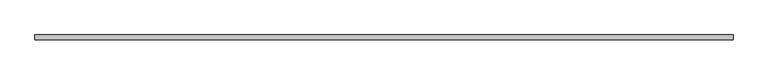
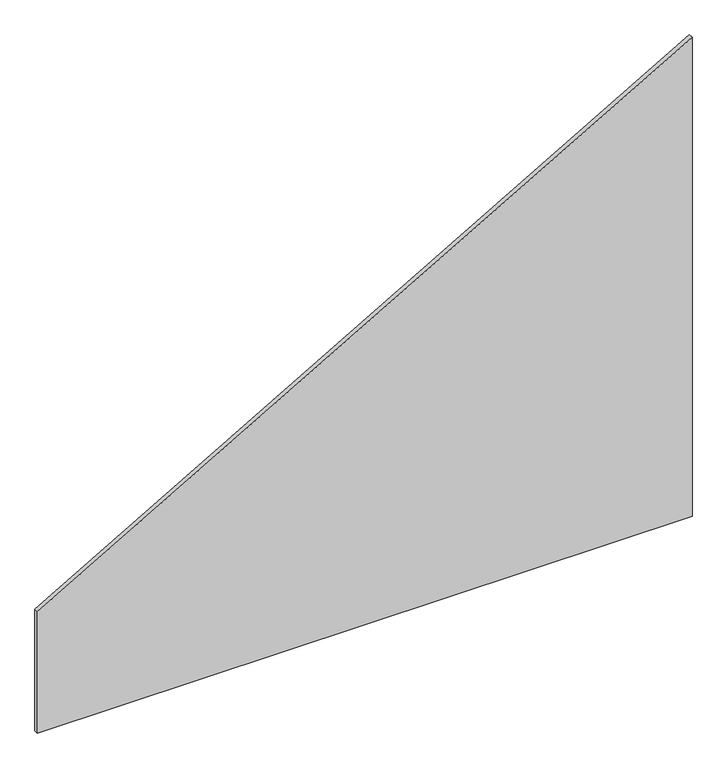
"""IFC4 building model written with IfcOpenShell, lengths in millimetres: plate geometry, 系統嵌板 : 玻璃 1.0cm."""

import ifcopenshell
import ifcopenshell.guid

model = None  # the IFC model being written
_history = None  # IfcOwnerHistory: only IFC2X3 demands one
_inside = {}  # id of a spatial element -> (the spatial element, [elements in it])
_under = {}  # id of a project, library or spatial element -> (it, [spatial elements below it])
_declared = {}  # id of a project -> (the project, [libraries it declares])
_typed = {}  # id of a type object -> (the type object, [elements of that type])
_made_of = {}  # id of a material, layer set ... -> (it, [elements and type objects made of it])


def new_model(schema):
    """Start an empty IFC model of exactly this schema.

    Asked for "IFC4X3", IfcOpenShell would pick the latest addendum, in which some entities
    have other attributes; the version numbers below select the first issue.
    IFC2X3 requires an IfcOwnerHistory on every rooted entity: one is made here for all.
    """
    global model, _history
    if schema == "IFC4X3":
        model = ifcopenshell.file(schema_version=(4, 3, 0, 0))
    else:
        model = ifcopenshell.file(schema=schema)
    _inside.clear()
    _under.clear()
    _declared.clear()
    _typed.clear()
    _made_of.clear()
    _history = None
    if model.schema == "IFC2X3":
        org = make("IfcOrganization", Name="unknown")
        user = make(
            "IfcPersonAndOrganization",
            ThePerson=make("IfcPerson", FamilyName="unknown"),
            TheOrganization=org,
        )
        app = make(
            "IfcApplication",
            ApplicationDeveloper=org,
            Version="unknown",
            ApplicationFullName="unknown",
            ApplicationIdentifier="unknown",
        )
        _history = make(
            "IfcOwnerHistory",
            OwningUser=user,
            OwningApplication=app,
            ChangeAction="ADDED",
            CreationDate=0,
        )
    return model


def make(cls, **values):
    """One entity of the class cls with the attributes given. An attribute that is None is left unset."""
    return model.create_entity(
        cls, **{name: value for name, value in values.items() if value is not None}
    )


def rooted(cls, **values):
    """An entity with a GlobalId (a new one), such as an element, a storey or a relation."""
    return make(cls, GlobalId=ifcopenshell.guid.new(), OwnerHistory=_history, **values)


def si_unit(unit_type, name, prefix=None):
    """IfcSIUnit, for example si_unit("LENGTHUNIT", "METRE", prefix="MILLI")."""
    return make("IfcSIUnit", UnitType=unit_type, Prefix=prefix, Name=name)


def assignment(units):
    """IfcUnitAssignment: the units of a project."""
    return None if units is None else make("IfcUnitAssignment", Units=units)


def point(xyz):
    """IfcCartesianPoint."""
    return None if xyz is None else make("IfcCartesianPoint", Coordinates=xyz)


def direction(xyz):
    """IfcDirection."""
    return None if xyz is None else make("IfcDirection", DirectionRatios=xyz)


def frame(location, z_axis=None, x_axis=None):
    """IfcAxis2Placement3D, a coordinate frame: its origin and axes. An axis left out is left unset."""
    return make(
        "IfcAxis2Placement3D",
        Location=point(location),
        Axis=direction(z_axis),
        RefDirection=direction(x_axis),
    )


def origin():
    """The frame at (0, 0, 0) with its axes left unset."""
    return frame((0.0, 0.0, 0.0))


def place(relative_to, where):
    """IfcLocalPlacement: puts the frame where relative to a parent placement (None: the world)."""
    return make(
        "IfcLocalPlacement", PlacementRelTo=relative_to, RelativePlacement=where
    )


def context(
    kind, dimensions, precision=None, world=None, true_north=None, identifier=None
):
    """IfcGeometricRepresentationContext, for example the 3D "Model" context."""
    return make(
        "IfcGeometricRepresentationContext",
        ContextIdentifier=identifier,
        ContextType=kind,
        CoordinateSpaceDimension=dimensions,
        Precision=precision,
        WorldCoordinateSystem=world,
        TrueNorth=true_north,
    )


def project(units=None, contexts=None):
    """IfcProject with its units and contexts."""
    return rooted(
        "IfcProject",
        Name="project",
        RepresentationContexts=contexts,
        UnitsInContext=assignment(units),
    )


def spatial(cls, under=None, at=None, **own):
    """A site, building, storey or space (cls), placed at a placement, below another one or the project."""
    s = rooted(cls, ObjectPlacement=at, **own)
    if under is not None:
        _under.setdefault(under.id(), (under, []))[1].append(s)
    return s


def polyline(points):
    """IfcPolyline through the points."""
    return make("IfcPolyline", Points=[point(p) for p in points])


def outline(outer, holes=None, kind="AREA"):
    """IfcArbitraryClosedProfileDef: a profile drawn as a closed curve; with holes, ...WithVoids."""
    if holes is None:
        return make("IfcArbitraryClosedProfileDef", ProfileType=kind, OuterCurve=outer)
    return make(
        "IfcArbitraryProfileDefWithVoids",
        ProfileType=kind,
        OuterCurve=outer,
        InnerCurves=holes,
    )


def extrude(swept, where, along, depth):
    """IfcExtrudedAreaSolid: the profile swept, set in the frame where, extruded along a direction by depth."""
    return make(
        "IfcExtrudedAreaSolid",
        SweptArea=swept,
        Position=where,
        ExtrudedDirection=direction(along),
        Depth=depth,
    )


def shape(context_of_items, identifier, shape_type, items):
    """IfcShapeRepresentation: the items that make up one representation, for example the "Body"."""
    return make(
        "IfcShapeRepresentation",
        ContextOfItems=context_of_items,
        RepresentationIdentifier=identifier,
        RepresentationType=shape_type,
        Items=items,
    )


def source(mapping_origin, context_of_items, identifier, shape_type, items):
    """IfcRepresentationMap: a shape defined once, which mapped items show again and again."""
    return make(
        "IfcRepresentationMap",
        MappingOrigin=mapping_origin,
        MappedRepresentation=shape(context_of_items, identifier, shape_type, items),
    )


def transform(
    local_origin,
    x_axis=None,
    y_axis=None,
    z_axis=None,
    scale=None,
    scale2=None,
    scale3=None,
    uniform=True,
):
    """IfcCartesianTransformationOperator3D, or its non-uniform kind. x_axis, y_axis, z_axis: its Axis1, 2, 3."""
    if uniform:
        return make(
            "IfcCartesianTransformationOperator3D",
            Axis1=direction(x_axis),
            Axis2=direction(y_axis),
            LocalOrigin=point(local_origin),
            Scale=scale,
            Axis3=direction(z_axis),
        )
    return make(
        "IfcCartesianTransformationOperator3DnonUniform",
        Axis1=direction(x_axis),
        Axis2=direction(y_axis),
        LocalOrigin=point(local_origin),
        Scale=scale,
        Axis3=direction(z_axis),
        Scale2=scale2,
        Scale3=scale3,
    )


def mapped(mapping_source, mapping_target):
    """IfcMappedItem: shows the shape of a source again, moved by a transform."""
    return make(
        "IfcMappedItem", MappingSource=mapping_source, MappingTarget=mapping_target
    )


def made_of(thing, what):
    """Note that an element or type object is made of a material, layer set ...; save() writes the relation."""
    if what is not None:
        _made_of.setdefault(what.id(), (what, []))[1].append(thing)
    return thing


def element(
    cls,
    number,
    at=None,
    inside=None,
    cuts=None,
    type_object=None,
    material=None,
    context=None,
    identifier="Body",
    shape_type=None,
    held_by="IfcProductDefinitionShape",
    body=None,
    shapes=None,
    **own,
):
    """One element of the class cls, such as IfcWall. Its Tag is "e" and its number.

    at: its placement. inside: the storey or other place that contains it. cuts: it is an
    opening in that element (IfcRelVoidsElement). A single representation is given by context,
    identifier, shape_type and body (its items); several are given by shapes. held_by: the class
    of the entity that holds the representations. save() writes the other relations.
    """
    e = rooted(cls, Tag="e%d" % number, ObjectPlacement=at, **own)
    if body is not None:
        shapes = [shape(context, identifier, shape_type, body)]
    if shapes is not None:
        e.Representation = make(held_by, Representations=shapes)
    if inside is not None:
        _inside.setdefault(inside.id(), (inside, []))[1].append(e)
    if cuts is not None:
        rooted(
            "IfcRelVoidsElement", RelatingBuildingElement=cuts, RelatedOpeningElement=e
        )
    if type_object is not None:
        _typed.setdefault(type_object.id(), (type_object, []))[1].append(e)
    return made_of(e, material)


def aggregate(whole, parts):
    """IfcRelAggregates: a whole, such as a stair, and the parts it consists of."""
    return rooted("IfcRelAggregates", RelatingObject=whole, RelatedObjects=parts)


def save(model, path):
    """Write the relations noted so far, then the file.

    IfcRelAggregates (storeys below a building ...), IfcRelContainedInSpatialStructure (elements
    in a storey), IfcRelDefinesByType, IfcRelAssociatesMaterial and IfcRelDeclares: one each for
    every whole, place, type object, material and project.
    """
    for whole, parts in _under.values():
        aggregate(whole, parts)
    for where, things in _inside.values():
        rooted(
            "IfcRelContainedInSpatialStructure",
            RelatedElements=things,
            RelatingStructure=where,
        )
    for kind, things in _typed.values():
        rooted("IfcRelDefinesByType", RelatedObjects=things, RelatingType=kind)
    for what, things in _made_of.values():
        rooted("IfcRelAssociatesMaterial", RelatedObjects=things, RelatingMaterial=what)
    for by, libraries in _declared.values():
        rooted("IfcRelDeclares", RelatingContext=by, RelatedDefinitions=libraries)
    model.write(path)


def plate_a97b291f(model_context):
    return source(origin(), model_context, "Body", "SweptSolid", [
        extrude(outline(polyline([(0.0, -750.0), (0.0, 750.0), (1160.2540378, 750.0), (294.2286341, -750.0), (0.0, -750.0)])), frame((0.0, -5.0, 0.0), z_axis=(0.0, 1.0, 0.0), x_axis=(0.0, 0.0, 1.0)), (0.0, 0.0, 1.0), 10.0),
    ])


if __name__ == "__main__":
    model = new_model("IFC4")
    model_context = context("Model", 3, world=origin())
    ifc_project = project(units=[si_unit("LENGTHUNIT", "METRE", prefix="MILLI")], contexts=[model_context])
    site = spatial("IfcSite", under=ifc_project)
    building = spatial("IfcBuilding", under=site)
    placement = place(None, origin())
    plate_shape = plate_a97b291f(model_context)
    element("IfcPlate", 1, ObjectType="系統嵌板 : 玻璃 1.0cm", at=placement, inside=building, context=model_context, shape_type="MappedRepresentation", body=[
        mapped(plate_shape, transform((0.0, 0.0, 0.0), x_axis=(1.0, 0.0, 0.0), y_axis=(0.0, 1.0, 0.0), z_axis=(0.0, 0.0, 1.0))),
    ])
    save(model, "model.ifc")
